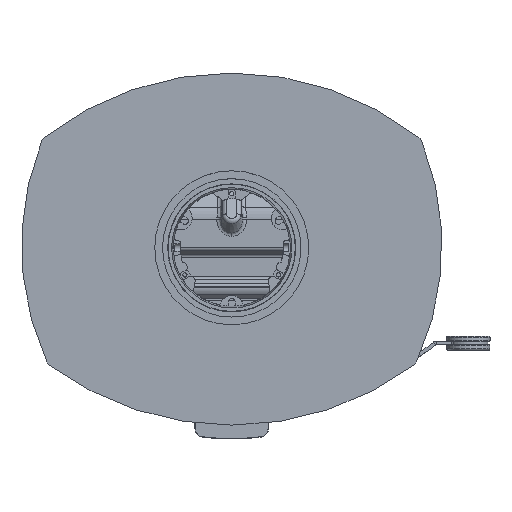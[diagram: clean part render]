
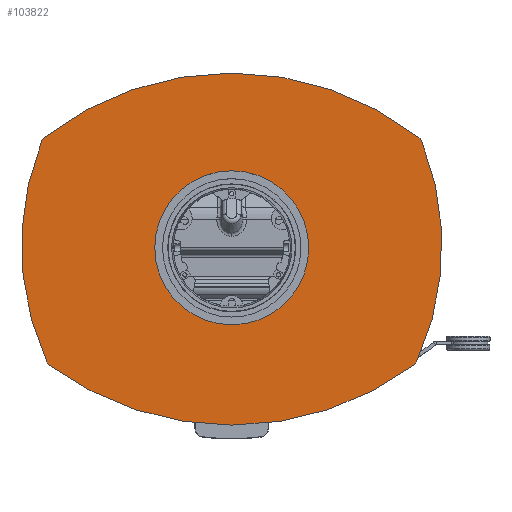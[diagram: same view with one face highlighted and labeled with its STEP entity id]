
A CAD part, top view. The second image highlights one B-rep face of the part: STEP entity #103822.
In plain terms, the highlighted planar face has unit normal (0, 0, 1).
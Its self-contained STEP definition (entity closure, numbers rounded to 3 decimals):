
#4237=FACE_BOUND('',#15154,.T.);
#9396=FACE_OUTER_BOUND('',#15153,.T.);
#15153=EDGE_LOOP('',(#90750,#90751,#90752,#90753,#90754,#90755,#90756,#90757));
#15154=EDGE_LOOP('',(#90758));
#19181=CIRCLE('',#112658,89.);
#19184=CIRCLE('',#112662,10.);
#19185=CIRCLE('',#112664,355.);
#19186=CIRCLE('',#112665,10.);
#19187=CIRCLE('',#112666,323.);
#19188=CIRCLE('',#112667,10.);
#19189=CIRCLE('',#112668,352.);
#19190=CIRCLE('',#112669,10.);
#19191=CIRCLE('',#112670,323.);
#47077=VERTEX_POINT('',#199845);
#47081=VERTEX_POINT('',#199854);
#47082=VERTEX_POINT('',#199856);
#47083=VERTEX_POINT('',#199860);
#47084=VERTEX_POINT('',#199862);
#47085=VERTEX_POINT('',#199864);
#47086=VERTEX_POINT('',#199866);
#47087=VERTEX_POINT('',#199868);
#47088=VERTEX_POINT('',#199870);
#61635=EDGE_CURVE('',#47077,#47077,#19181,.T.);
#61640=EDGE_CURVE('',#47081,#47082,#19184,.T.);
#61642=EDGE_CURVE('',#47083,#47081,#19185,.T.);
#61643=EDGE_CURVE('',#47084,#47083,#19186,.T.);
#61644=EDGE_CURVE('',#47085,#47084,#19187,.T.);
#61645=EDGE_CURVE('',#47086,#47085,#19188,.T.);
#61646=EDGE_CURVE('',#47087,#47086,#19189,.T.);
#61647=EDGE_CURVE('',#47088,#47087,#19190,.T.);
#61648=EDGE_CURVE('',#47082,#47088,#19191,.T.);
#90750=ORIENTED_EDGE('',*,*,#61640,.F.);
#90751=ORIENTED_EDGE('',*,*,#61642,.F.);
#90752=ORIENTED_EDGE('',*,*,#61643,.F.);
#90753=ORIENTED_EDGE('',*,*,#61644,.F.);
#90754=ORIENTED_EDGE('',*,*,#61645,.F.);
#90755=ORIENTED_EDGE('',*,*,#61646,.F.);
#90756=ORIENTED_EDGE('',*,*,#61647,.F.);
#90757=ORIENTED_EDGE('',*,*,#61648,.F.);
#90758=ORIENTED_EDGE('',*,*,#61635,.T.);
#93487=PLANE('',#112663);
#103822=ADVANCED_FACE('',(#9396,#4237),#93487,.F.);
#112658=AXIS2_PLACEMENT_3D('',#199846,#139647,#139648);
#112662=AXIS2_PLACEMENT_3D('',#199857,#139657,#139658);
#112663=AXIS2_PLACEMENT_3D('',#199859,#139660,#139661);
#112664=AXIS2_PLACEMENT_3D('',#199861,#139662,#139663);
#112665=AXIS2_PLACEMENT_3D('',#199863,#139664,#139665);
#112666=AXIS2_PLACEMENT_3D('',#199865,#139666,#139667);
#112667=AXIS2_PLACEMENT_3D('',#199867,#139668,#139669);
#112668=AXIS2_PLACEMENT_3D('',#199869,#139670,#139671);
#112669=AXIS2_PLACEMENT_3D('',#199871,#139672,#139673);
#112670=AXIS2_PLACEMENT_3D('',#199872,#139674,#139675);
#139647=DIRECTION('center_axis',(0.,0.,
-1.));
#139648=DIRECTION('ref_axis',(1.,0.,0.));
#139657=DIRECTION('center_axis',(0.,0.,
-1.));
#139658=DIRECTION('ref_axis',(-0.776,-0.631,0.));
#139660=DIRECTION('center_axis',(0.,0.,
-1.));
#139661=DIRECTION('ref_axis',(1.,0.,0.));
#139662=DIRECTION('center_axis',(0.,0.,
-1.));
#139663=DIRECTION('ref_axis',(0.599,-0.801,0.));
#139664=DIRECTION('center_axis',(0.,0.,
-1.));
#139665=DIRECTION('ref_axis',(0.776,-0.631,0.));
#139666=DIRECTION('center_axis',(0.,0.,
-1.));
#139667=DIRECTION('ref_axis',(0.924,0.382,0.));
#139668=DIRECTION('center_axis',(0.,0.,
-1.));
#139669=DIRECTION('ref_axis',(0.798,0.602,0.));
#139670=DIRECTION('center_axis',(0.,0.,
-1.));
#139671=DIRECTION('ref_axis',(-0.621,0.784,0.));
#139672=DIRECTION('center_axis',(0.,0.,
-1.));
#139673=DIRECTION('ref_axis',(-0.798,0.602,0.));
#139674=DIRECTION('center_axis',(0.,0.,
-1.));
#139675=DIRECTION('ref_axis',(-0.906,-0.424,0.));
#199845=CARTESIAN_POINT('',(-89.,-150.,354.));
#199846=CARTESIAN_POINT('Origin',(0.,-150.,
354.));
#199854=CARTESIAN_POINT('',(-210.525,-285.84,354.));
#199856=CARTESIAN_POINT('',(-213.687,-281.95,354.));
#199857=CARTESIAN_POINT('Origin',(-204.595,-277.788,354.));
#199859=CARTESIAN_POINT('Origin',(0.,-151.453,
354.));
#199860=CARTESIAN_POINT('',(210.525,-285.84,354.));
#199861=CARTESIAN_POINT('Origin',(0.,0.,
354.));
#199862=CARTESIAN_POINT('',(213.687,-281.95,354.));
#199863=CARTESIAN_POINT('Origin',(204.595,-277.788,354.));
#199864=CARTESIAN_POINT('',(219.469,-26.473,354.));
#199865=CARTESIAN_POINT('Origin',(-80.,-147.5,354.));
#199866=CARTESIAN_POINT('',(216.343,-22.332,354.));
#199867=CARTESIAN_POINT('Origin',(210.197,-30.22,354.));
#199868=CARTESIAN_POINT('',(-216.343,-22.332,354.));
#199869=CARTESIAN_POINT('Origin',(0.,-300.,
354.));
#199870=CARTESIAN_POINT('',(-219.469,-26.473,354.));
#199871=CARTESIAN_POINT('Origin',(-210.197,-30.22,354.));
#199872=CARTESIAN_POINT('Origin',(80.,-147.5,354.));
